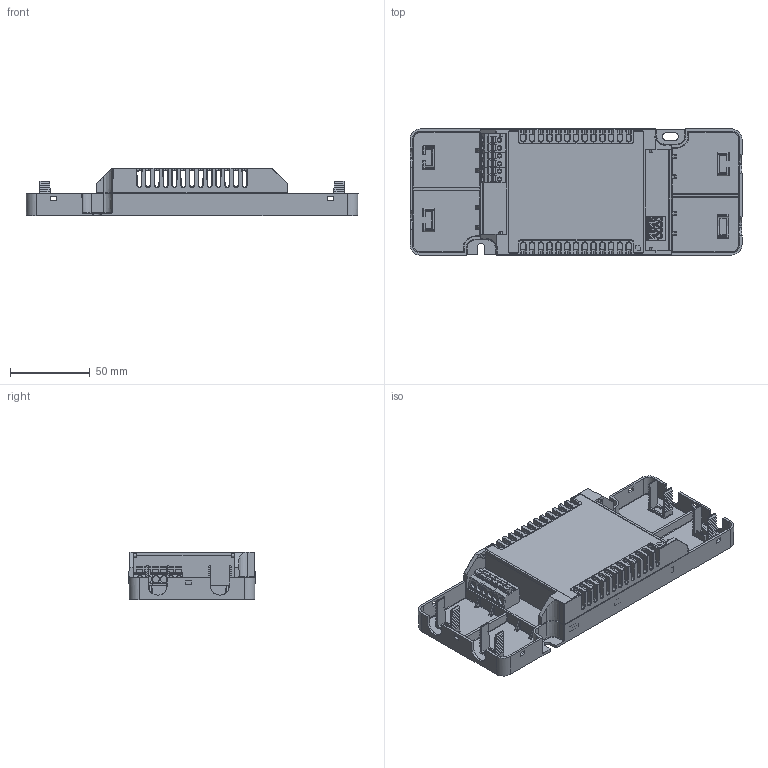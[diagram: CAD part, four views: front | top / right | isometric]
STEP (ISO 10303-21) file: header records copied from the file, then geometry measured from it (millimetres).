
FILE_DESCRIPTION (( 'STEP AP203' ), '1' );
FILE_NAME ('LC51SE-CC-900-1400-LOOP-WOSR.STEP', '2018-06-20T12:04:03', ( '' ), ( '' ), 'SwSTEP 2.0', 'SolidWorks 2014', '' );
FILE_SCHEMA (( 'CONFIG_CONTROL_DESIGN' ));
Products named in the file (1): LC51SE-CC-900-1400-LOOP-WOSR
Bounding box: 207.8 x 79 x 30 mm (x, y, z)
Volume: 85615.5 mm3; surface area: 106911.7 mm2
Topology: 7 solids, 7 shells, 2575 faces, 6752 edges, 4179 vertices
Faces by surface type: plane 1143, cylinder 867, bspline 415, sphere 86, cone 41, torus 23
Entity records: 85446 total; most frequent: CARTESIAN_POINT 26932, ORIENTED_EDGE 13458, DIRECTION 10895, EDGE_CURVE 6729, VECTOR 4199, LINE 4199, VERTEX_POINT 4179, AXIS2_PLACEMENT_3D 3348
